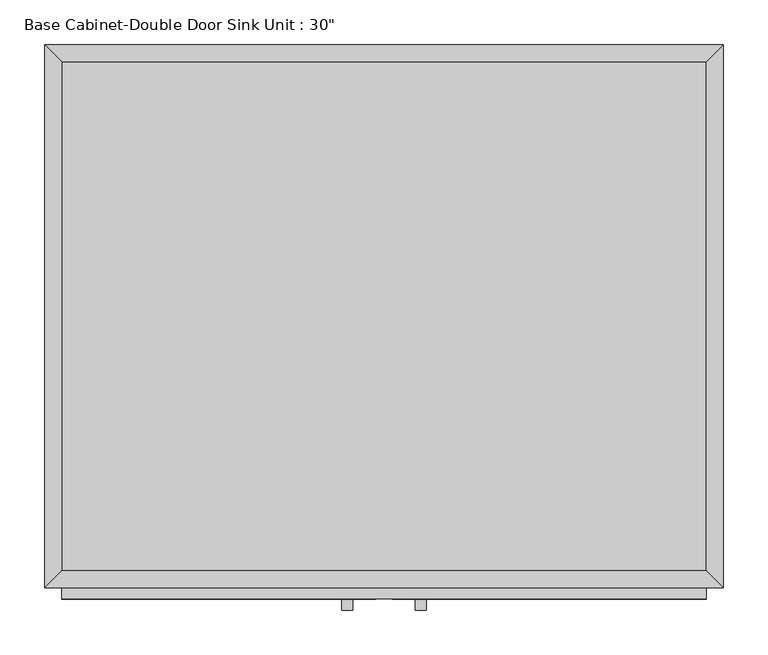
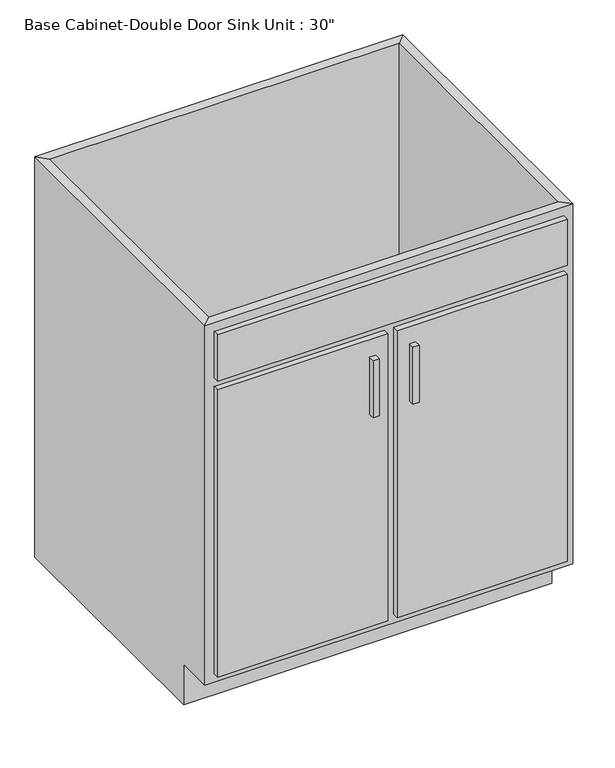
"""IFC4 building model written with IfcOpenShell, lengths in millimetres: furniture geometry."""

import ifcopenshell
import ifcopenshell.guid

model = None  # the IFC model being written
_history = None  # IfcOwnerHistory: only IFC2X3 demands one
_inside = {}  # id of a spatial element -> (the spatial element, [elements in it])
_under = {}  # id of a project, library or spatial element -> (it, [spatial elements below it])
_declared = {}  # id of a project -> (the project, [libraries it declares])
_typed = {}  # id of a type object -> (the type object, [elements of that type])
_made_of = {}  # id of a material, layer set ... -> (it, [elements and type objects made of it])


def new_model(schema):
    """Start an empty IFC model of exactly this schema.

    Asked for "IFC4X3", IfcOpenShell would pick the latest addendum, in which some entities
    have other attributes; the version numbers below select the first issue.
    IFC2X3 requires an IfcOwnerHistory on every rooted entity: one is made here for all.
    """
    global model, _history
    if schema == "IFC4X3":
        model = ifcopenshell.file(schema_version=(4, 3, 0, 0))
    else:
        model = ifcopenshell.file(schema=schema)
    _inside.clear()
    _under.clear()
    _declared.clear()
    _typed.clear()
    _made_of.clear()
    _history = None
    if model.schema == "IFC2X3":
        org = make("IfcOrganization", Name="unknown")
        user = make(
            "IfcPersonAndOrganization",
            ThePerson=make("IfcPerson", FamilyName="unknown"),
            TheOrganization=org,
        )
        app = make(
            "IfcApplication",
            ApplicationDeveloper=org,
            Version="unknown",
            ApplicationFullName="unknown",
            ApplicationIdentifier="unknown",
        )
        _history = make(
            "IfcOwnerHistory",
            OwningUser=user,
            OwningApplication=app,
            ChangeAction="ADDED",
            CreationDate=0,
        )
    return model


def make(cls, **values):
    """One entity of the class cls with the attributes given. An attribute that is None is left unset."""
    return model.create_entity(
        cls, **{name: value for name, value in values.items() if value is not None}
    )


def rooted(cls, **values):
    """An entity with a GlobalId (a new one), such as an element, a storey or a relation."""
    return make(cls, GlobalId=ifcopenshell.guid.new(), OwnerHistory=_history, **values)


def si_unit(unit_type, name, prefix=None):
    """IfcSIUnit, for example si_unit("LENGTHUNIT", "METRE", prefix="MILLI")."""
    return make("IfcSIUnit", UnitType=unit_type, Prefix=prefix, Name=name)


def assignment(units):
    """IfcUnitAssignment: the units of a project."""
    return None if units is None else make("IfcUnitAssignment", Units=units)


def point(xyz):
    """IfcCartesianPoint."""
    return None if xyz is None else make("IfcCartesianPoint", Coordinates=xyz)


def direction(xyz):
    """IfcDirection."""
    return None if xyz is None else make("IfcDirection", DirectionRatios=xyz)


def frame(location, z_axis=None, x_axis=None):
    """IfcAxis2Placement3D, a coordinate frame: its origin and axes. An axis left out is left unset."""
    return make(
        "IfcAxis2Placement3D",
        Location=point(location),
        Axis=direction(z_axis),
        RefDirection=direction(x_axis),
    )


def origin():
    """The frame at (0, 0, 0) with its axes left unset."""
    return frame((0.0, 0.0, 0.0))


def place(relative_to, where):
    """IfcLocalPlacement: puts the frame where relative to a parent placement (None: the world)."""
    return make(
        "IfcLocalPlacement", PlacementRelTo=relative_to, RelativePlacement=where
    )


def context(
    kind, dimensions, precision=None, world=None, true_north=None, identifier=None
):
    """IfcGeometricRepresentationContext, for example the 3D "Model" context."""
    return make(
        "IfcGeometricRepresentationContext",
        ContextIdentifier=identifier,
        ContextType=kind,
        CoordinateSpaceDimension=dimensions,
        Precision=precision,
        WorldCoordinateSystem=world,
        TrueNorth=true_north,
    )


def project(units=None, contexts=None):
    """IfcProject with its units and contexts."""
    return rooted(
        "IfcProject",
        Name="project",
        RepresentationContexts=contexts,
        UnitsInContext=assignment(units),
    )


def spatial(cls, under=None, at=None, **own):
    """A site, building, storey or space (cls), placed at a placement, below another one or the project."""
    s = rooted(cls, ObjectPlacement=at, **own)
    if under is not None:
        _under.setdefault(under.id(), (under, []))[1].append(s)
    return s


def polyline(points):
    """IfcPolyline through the points."""
    return make("IfcPolyline", Points=[point(p) for p in points])


def outline(outer, holes=None, kind="AREA"):
    """IfcArbitraryClosedProfileDef: a profile drawn as a closed curve; with holes, ...WithVoids."""
    if holes is None:
        return make("IfcArbitraryClosedProfileDef", ProfileType=kind, OuterCurve=outer)
    return make(
        "IfcArbitraryProfileDefWithVoids",
        ProfileType=kind,
        OuterCurve=outer,
        InnerCurves=holes,
    )


def extrude(swept, where, along, depth):
    """IfcExtrudedAreaSolid: the profile swept, set in the frame where, extruded along a direction by depth."""
    return make(
        "IfcExtrudedAreaSolid",
        SweptArea=swept,
        Position=where,
        ExtrudedDirection=direction(along),
        Depth=depth,
    )


def faces_of(points, faces, orient=None, outer=None):
    """IfcFace entities. A face is a list of loops; a loop is a list of indices into points, from 0.

    orient and outer hold one flag for each loop. By default every Orientation is true, the
    first loop of a face is its IfcFaceOuterBound and the others are IfcFaceBound.
    """
    made = []
    for i, loops in enumerate(faces):
        bounds = []
        for j, loop in enumerate(loops):
            is_outer = j == 0 if outer is None else outer[i][j]
            bounds.append(
                make(
                    "IfcFaceOuterBound" if is_outer else "IfcFaceBound",
                    Bound=make("IfcPolyLoop", Polygon=[points[k] for k in loop]),
                    Orientation=True if orient is None else orient[i][j],
                )
            )
        made.append(make("IfcFace", Bounds=bounds))
    return made


def faceted_brep(points, faces, orient=None, outer=None, voids=None):
    """IfcFacetedBrep: a solid bounded by flat faces; with voids (closed shells), ...WithVoids."""
    shared = [point(p) for p in points]
    hull = make("IfcClosedShell", CfsFaces=faces_of(shared, faces, orient, outer))
    if voids is None:
        return make("IfcFacetedBrep", Outer=hull)
    return make(
        "IfcFacetedBrepWithVoids",
        Outer=hull,
        Voids=[
            make(cls, CfsFaces=faces_of(shared, fs, o, b)) for cls, fs, o, b in voids
        ],
    )


def shape(context_of_items, identifier, shape_type, items):
    """IfcShapeRepresentation: the items that make up one representation, for example the "Body"."""
    return make(
        "IfcShapeRepresentation",
        ContextOfItems=context_of_items,
        RepresentationIdentifier=identifier,
        RepresentationType=shape_type,
        Items=items,
    )


def source(mapping_origin, context_of_items, identifier, shape_type, items):
    """IfcRepresentationMap: a shape defined once, which mapped items show again and again."""
    return make(
        "IfcRepresentationMap",
        MappingOrigin=mapping_origin,
        MappedRepresentation=shape(context_of_items, identifier, shape_type, items),
    )


def transform(
    local_origin,
    x_axis=None,
    y_axis=None,
    z_axis=None,
    scale=None,
    scale2=None,
    scale3=None,
    uniform=True,
):
    """IfcCartesianTransformationOperator3D, or its non-uniform kind. x_axis, y_axis, z_axis: its Axis1, 2, 3."""
    if uniform:
        return make(
            "IfcCartesianTransformationOperator3D",
            Axis1=direction(x_axis),
            Axis2=direction(y_axis),
            LocalOrigin=point(local_origin),
            Scale=scale,
            Axis3=direction(z_axis),
        )
    return make(
        "IfcCartesianTransformationOperator3DnonUniform",
        Axis1=direction(x_axis),
        Axis2=direction(y_axis),
        LocalOrigin=point(local_origin),
        Scale=scale,
        Axis3=direction(z_axis),
        Scale2=scale2,
        Scale3=scale3,
    )


def mapped(mapping_source, mapping_target):
    """IfcMappedItem: shows the shape of a source again, moved by a transform."""
    return make(
        "IfcMappedItem", MappingSource=mapping_source, MappingTarget=mapping_target
    )


def made_of(thing, what):
    """Note that an element or type object is made of a material, layer set ...; save() writes the relation."""
    if what is not None:
        _made_of.setdefault(what.id(), (what, []))[1].append(thing)
    return thing


def element(
    cls,
    number,
    at=None,
    inside=None,
    cuts=None,
    type_object=None,
    material=None,
    context=None,
    identifier="Body",
    shape_type=None,
    held_by="IfcProductDefinitionShape",
    body=None,
    shapes=None,
    **own,
):
    """One element of the class cls, such as IfcWall. Its Tag is "e" and its number.

    at: its placement. inside: the storey or other place that contains it. cuts: it is an
    opening in that element (IfcRelVoidsElement). A single representation is given by context,
    identifier, shape_type and body (its items); several are given by shapes. held_by: the class
    of the entity that holds the representations. save() writes the other relations.
    """
    e = rooted(cls, Tag="e%d" % number, ObjectPlacement=at, **own)
    if body is not None:
        shapes = [shape(context, identifier, shape_type, body)]
    if shapes is not None:
        e.Representation = make(held_by, Representations=shapes)
    if inside is not None:
        _inside.setdefault(inside.id(), (inside, []))[1].append(e)
    if cuts is not None:
        rooted(
            "IfcRelVoidsElement", RelatingBuildingElement=cuts, RelatedOpeningElement=e
        )
    if type_object is not None:
        _typed.setdefault(type_object.id(), (type_object, []))[1].append(e)
    return made_of(e, material)


def aggregate(whole, parts):
    """IfcRelAggregates: a whole, such as a stair, and the parts it consists of."""
    return rooted("IfcRelAggregates", RelatingObject=whole, RelatedObjects=parts)


def save(model, path):
    """Write the relations noted so far, then the file.

    IfcRelAggregates (storeys below a building ...), IfcRelContainedInSpatialStructure (elements
    in a storey), IfcRelDefinesByType, IfcRelAssociatesMaterial and IfcRelDeclares: one each for
    every whole, place, type object, material and project.
    """
    for whole, parts in _under.values():
        aggregate(whole, parts)
    for where, things in _inside.values():
        rooted(
            "IfcRelContainedInSpatialStructure",
            RelatedElements=things,
            RelatingStructure=where,
        )
    for kind, things in _typed.values():
        rooted("IfcRelDefinesByType", RelatedObjects=things, RelatingType=kind)
    for what, things in _made_of.values():
        rooted("IfcRelAssociatesMaterial", RelatedObjects=things, RelatingMaterial=what)
    for by, libraries in _declared.values():
        rooted("IfcRelDeclares", RelatingContext=by, RelatedDefinitions=libraries)
    model.write(path)


def furniture_5bfe328f(model_context):
    return source(origin(), model_context, "Body", "SolidModel", [
        faceted_brep([(380.6877049, -590.55, 876.3), (380.6877049, -590.55, 88.9), (-343.2122951, -590.55, 88.9), (-343.2122951, -590.55, 876.3), (-362.2622951, -609.6, 876.3), (399.7377049, -609.6, 876.3), (-362.2622951, -609.6, 88.9), (399.7377049, -609.6, 88.9), (-343.2122951, -533.4, 88.9), (-343.2122951, -19.05, 88.9), (-343.2122951, -19.05, 876.3), (-362.2622951, 0.0, 876.3), (-362.2622951, 0.0, 0.0), (-362.2622951, -533.4, 0.0), (-362.2622951, -533.4, 88.9), (380.6877049, -19.05, 88.9), (380.6877049, -19.05, 876.3), (399.7377049, 0.0, 876.3), (399.7377049, 0.0, 0.0), (380.6877049, -533.4, 88.9), (399.7377049, -533.4, 88.9), (399.7377049, -533.4, 0.0)], [[[0, 1, 2, 3]], [[0, 3, 4, 5]], [[5, 4, 6, 7]], [[2, 1, 7, 6]], [[3, 2, 8, 9, 10]], [[4, 3, 10, 11]], [[6, 4, 11, 12, 13, 14]], [[2, 6, 14, 8]], [[10, 9, 15, 16]], [[11, 10, 16, 17]], [[12, 11, 17, 18]], [[1, 0, 16, 15, 19]], [[0, 5, 17, 16]], [[5, 7, 20, 21, 18, 17]], [[7, 1, 19, 20]], [[8, 19, 15, 9]], [[18, 21, 13, 12]], [[13, 21, 20, 19, 8, 14]]]),
        extrude(outline(polyline([(-16.1872951, -635.0), (-28.8872951, -635.0), (-28.8872951, -622.3), (-16.1872951, -622.3), (-16.1872951, -635.0)])), frame((0.0, 0.0, 573.769895), z_axis=(0.0, 0.0, 1.0), x_axis=(1.0, 0.0, 0.0)), (0.0, 0.0, 1.0), 124.730105),
        extrude(outline(polyline([(66.3627049, -635.0), (53.6627049, -635.0), (53.6627049, -622.3), (66.3627049, -622.3), (66.3627049, -635.0)])), frame((0.0, 0.0, 573.769895), z_axis=(0.0, 0.0, 1.0), x_axis=(1.0, 0.0, 0.0)), (0.0, 0.0, 1.0), 124.730105),
        extrude(outline(polyline([(380.6877049, -19.05), (380.6877049, -590.55), (-343.2122951, -590.55), (-343.2122951, -19.05), (380.6877049, -19.05)])), frame((0.0, 0.0, 88.9), z_axis=(0.0, 0.0, 1.0), x_axis=(1.0, 0.0, 0.0)), (0.0, 0.0, 1.0), 19.05),
        extrude(outline(polyline([(9.2127049, -622.3), (-343.2122951, -622.3), (-343.2122951, -609.6), (9.2127049, -609.6), (9.2127049, -622.3)])), frame((0.0, 0.0, 107.95), z_axis=(0.0, 0.0, 1.0), x_axis=(1.0, 0.0, 0.0)), (0.0, 0.0, 1.0), 628.65),
        extrude(outline(polyline([(380.6877049, -622.3), (28.2627049, -622.3), (28.2627049, -609.6), (380.6877049, -609.6), (380.6877049, -622.3)])), frame((0.0, 0.0, 107.95), z_axis=(0.0, 0.0, 1.0), x_axis=(1.0, 0.0, 0.0)), (0.0, 0.0, 1.0), 628.65),
        extrude(outline(polyline([(380.6877049, -622.3), (-343.2122951, -622.3), (-343.2122951, -609.6), (380.6877049, -609.6), (380.6877049, -622.3)])), frame((0.0, 0.0, 755.65), z_axis=(0.0, 0.0, 1.0), x_axis=(1.0, 0.0, 0.0)), (0.0, 0.0, 1.0), 101.6),
    ])


if __name__ == "__main__":
    model = new_model("IFC4")
    model_context = context("Model", 3, world=origin())
    ifc_project = project(units=[si_unit("LENGTHUNIT", "METRE", prefix="MILLI")], contexts=[model_context])
    site = spatial("IfcSite", under=ifc_project)
    building = spatial("IfcBuilding", under=site)
    placement = place(None, origin())
    furniture_shape = furniture_5bfe328f(model_context)
    element("IfcFurniture", 1, ObjectType="Base Cabinet-Double Door Sink Unit : 30\"", at=placement, inside=building, context=model_context, shape_type="MappedRepresentation", body=[
        mapped(furniture_shape, transform((0.0, 0.0, 0.0), x_axis=(1.0, 0.0, 0.0), y_axis=(0.0, 1.0, 0.0), z_axis=(0.0, 0.0, 1.0))),
    ])
    save(model, "model.ifc")
